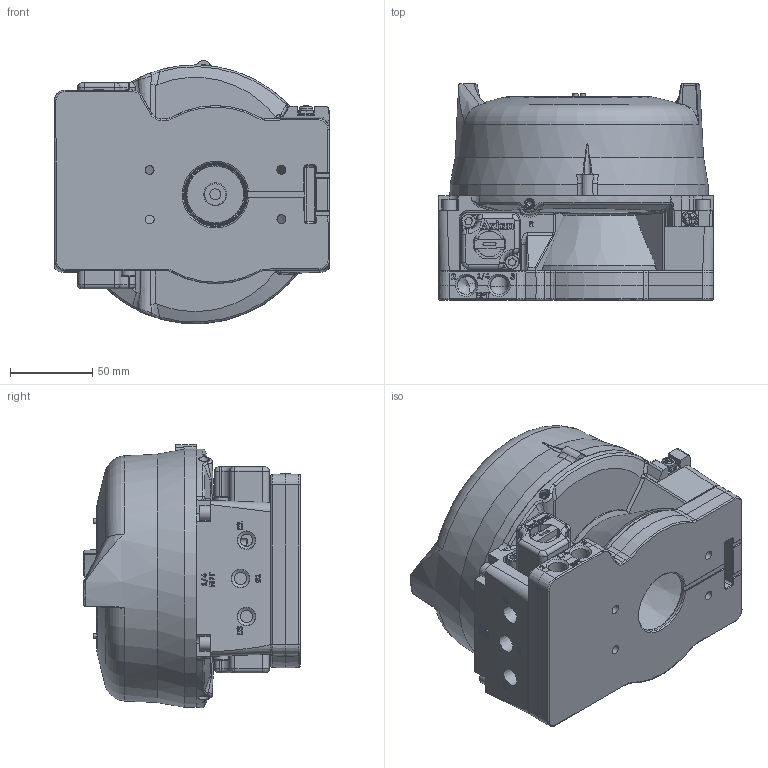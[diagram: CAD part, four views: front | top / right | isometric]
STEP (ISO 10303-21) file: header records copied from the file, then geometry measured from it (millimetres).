
FILE_DESCRIPTION(/* description */ ('HOUSING AX 2 NPT SILVER'),/* implementation_level */ '2;1');
FILE_NAME(/* name */ 'C:\vault\Engineering Documents\Work In Progress\BKunz\Platform STP files\Updated with conduits\AX Updated STP.stp',/* time_stamp */ '2017-07-31T15:03:00-05:00',/* author */ ('ffmkunzbob'),/* organization */ (''),/* preprocessor_version */ 'ST-DEVELOPER v16.1',/* originating_system */ 'Autodesk Inventor 2016',/* authorisation */ '');
FILE_SCHEMA (('AUTOMOTIVE_DESIGN { 1 0 10303 214 3 1 1 }'));
Length unit declared in the file: inch
Products named in the file (16): 401586; 450169; 408194; 450173; 450158; 402276; 408293; 404050; 402262; 432033 AX VI; 604948; 408297; 428088; 408988; 411232; AX Updated STP
Assembly tree (23 placements, depth 3):
  AX Updated STP
    401586
    450169
    408194  x4
    450173
    450158
    402276
    408293  x4
    404050
    604948
      402262
      432033 AX VI
    408297  x3
    428088
    408988
    411232
Bounding box: 167.2 x 131.41 x 159.85 mm (x, y, z)
Volume: 1007501.2 mm3; surface area: 336889.7 mm2
Topology: 22 solids, 22 shells, 3634 faces, 9624 edges, 6143 vertices
Faces by surface type: plane 1625, cylinder 850, bspline 699, cone 306, torus 137, sphere 17
Full cylindrical faces by diameter (mm): 1.397 x2, 2.159 x5, 2.362 x1, 2.54 x2, 3.251 x1, 3.302 x1, 3.683 x4, 4.14 x10, 4.166 x1, 4.445 x1, 4.496 x1, 4.623 x1, 4.928 x8, 4.978 x4, 5.08 x4, 5.156 x4, 5.207 x4, 5.359 x2, 5.41 x4, 5.578 x15, 5.588 x2, 5.944 x10, 5.994 x4, 6.096 x1, 6.223 x1, 6.35 x16, 6.731 x5, 7.518 x6, 8.077 x16, 8.179 x1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
Entity records: 131694 total; most frequent: CARTESIAN_POINT 52959, ORIENTED_EDGE 16948, DIRECTION 13546, EDGE_CURVE 8474, VERTEX_POINT 5594, AXIS2_PLACEMENT_3D 4560, LINE 4426, VECTOR 4426
